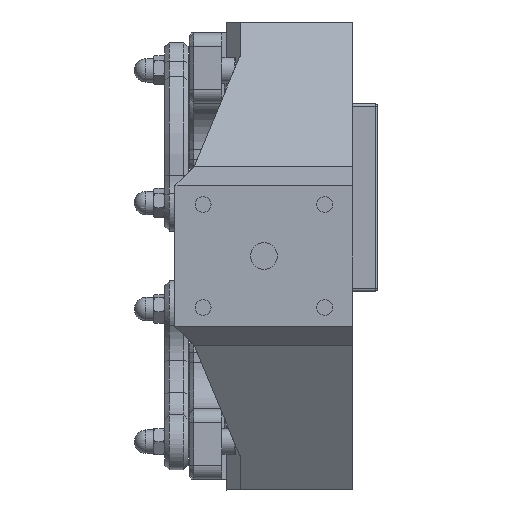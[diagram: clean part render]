
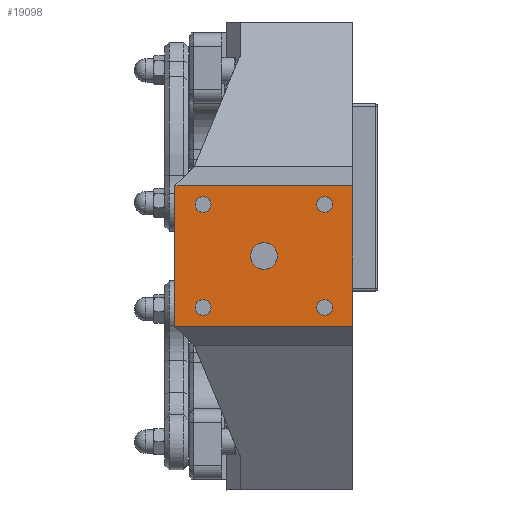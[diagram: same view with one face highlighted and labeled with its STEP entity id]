
A CAD part, front view. The second image highlights one B-rep face of the part: STEP entity #19098.
In plain terms, the highlighted planar face has unit normal (0, -1, 0).
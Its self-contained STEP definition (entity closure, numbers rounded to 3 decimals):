
#807=FACE_BOUND('',#3824,.T.);
#808=FACE_BOUND('',#3825,.T.);
#809=FACE_BOUND('',#3826,.T.);
#810=FACE_BOUND('',#3827,.T.);
#811=FACE_BOUND('',#3828,.T.);
#1317=PLANE('',#21348);
#2624=FACE_OUTER_BOUND('',#3823,.T.);
#3823=EDGE_LOOP('',(#17030,#17031,#17032,#17033));
#3824=EDGE_LOOP('',(#17034));
#3825=EDGE_LOOP('',(#17035));
#3826=EDGE_LOOP('',(#17036));
#3827=EDGE_LOOP('',(#17037));
#3828=EDGE_LOOP('',(#17038));
#5390=LINE('',#32059,#7128);
#5392=LINE('',#32065,#7130);
#5400=LINE('',#32080,#7138);
#5401=LINE('',#32081,#7139);
#7128=VECTOR('',#26117,10.);
#7130=VECTOR('',#26121,10.);
#7138=VECTOR('',#26133,10.);
#7139=VECTOR('',#26134,10.);
#8251=CIRCLE('',#21349,1.7);
#8252=CIRCLE('',#21350,1.7);
#8253=CIRCLE('',#21351,1.7);
#8254=CIRCLE('',#21352,1.7);
#8255=CIRCLE('',#21353,2.85);
#9684=VERTEX_POINT('',#32052);
#9687=VERTEX_POINT('',#32057);
#9688=VERTEX_POINT('',#32061);
#9690=VERTEX_POINT('',#32064);
#9696=VERTEX_POINT('',#32082);
#9697=VERTEX_POINT('',#32084);
#9698=VERTEX_POINT('',#32086);
#9699=VERTEX_POINT('',#32088);
#9700=VERTEX_POINT('',#32090);
#12189=EDGE_CURVE('',#9684,#9687,#5390,.T.);
#12191=EDGE_CURVE('',#9690,#9688,#5392,.T.);
#12199=EDGE_CURVE('',#9688,#9684,#5400,.T.);
#12200=EDGE_CURVE('',#9687,#9690,#5401,.T.);
#12201=EDGE_CURVE('',#9696,#9696,#8251,.T.);
#12202=EDGE_CURVE('',#9697,#9697,#8252,.T.);
#12203=EDGE_CURVE('',#9698,#9698,#8253,.T.);
#12204=EDGE_CURVE('',#9699,#9699,#8254,.T.);
#12205=EDGE_CURVE('',#9700,#9700,#8255,.T.);
#17030=ORIENTED_EDGE('',*,*,#12199,.T.);
#17031=ORIENTED_EDGE('',*,*,#12189,.T.);
#17032=ORIENTED_EDGE('',*,*,#12200,.T.);
#17033=ORIENTED_EDGE('',*,*,#12191,.T.);
#17034=ORIENTED_EDGE('',*,*,#12201,.T.);
#17035=ORIENTED_EDGE('',*,*,#12202,.T.);
#17036=ORIENTED_EDGE('',*,*,#12203,.T.);
#17037=ORIENTED_EDGE('',*,*,#12204,.T.);
#17038=ORIENTED_EDGE('',*,*,#12205,.T.);
#19098=ADVANCED_FACE('',(#2624,#807,#808,#809,#810,#811),#1317,.T.);
#21348=AXIS2_PLACEMENT_3D('',#32079,#26131,#26132);
#21349=AXIS2_PLACEMENT_3D('',#32083,#26135,#26136);
#21350=AXIS2_PLACEMENT_3D('',#32085,#26137,#26138);
#21351=AXIS2_PLACEMENT_3D('',#32087,#26139,#26140);
#21352=AXIS2_PLACEMENT_3D('',#32089,#26141,#26142);
#21353=AXIS2_PLACEMENT_3D('',#32091,#26143,#26144);
#26117=DIRECTION('',(0.,0.,1.));
#26121=DIRECTION('',(0.,0.,-1.));
#26131=DIRECTION('center_axis',(0.,-1.,0.));
#26132=DIRECTION('ref_axis',(0.,0.,-1.));
#26133=DIRECTION('',(1.,0.,0.));
#26134=DIRECTION('',(-1.,0.,0.));
#26135=DIRECTION('center_axis',(0.,1.,0.));
#26136=DIRECTION('ref_axis',(-1.,0.,0.));
#26137=DIRECTION('center_axis',(0.,1.,0.));
#26138=DIRECTION('ref_axis',(-1.,0.,0.));
#26139=DIRECTION('center_axis',(0.,1.,0.));
#26140=DIRECTION('ref_axis',(-1.,0.,0.));
#26141=DIRECTION('center_axis',(0.,1.,0.));
#26142=DIRECTION('ref_axis',(-1.,0.,0.));
#26143=DIRECTION('center_axis',(0.,1.,0.));
#26144=DIRECTION('ref_axis',(-1.,0.,0.));
#32052=CARTESIAN_POINT('',(15.,-55.,-19.));
#32057=CARTESIAN_POINT('',(15.,-55.,19.));
#32059=CARTESIAN_POINT('',(15.,-55.,-19.));
#32061=CARTESIAN_POINT('',(-15.,-55.,-19.));
#32064=CARTESIAN_POINT('',(-15.,-55.,19.));
#32065=CARTESIAN_POINT('',(-15.,-55.,19.));
#32079=CARTESIAN_POINT('Origin',(0.,-55.,0.));
#32080=CARTESIAN_POINT('',(-15.,-55.,-19.));
#32081=CARTESIAN_POINT('',(15.,-55.,19.));
#32082=CARTESIAN_POINT('',(-12.7,-55.,13.));
#32083=CARTESIAN_POINT('Origin',(-11.,-55.,13.));
#32084=CARTESIAN_POINT('',(9.3,-55.,13.));
#32085=CARTESIAN_POINT('Origin',(11.,-55.,13.));
#32086=CARTESIAN_POINT('',(-12.7,-55.,-13.));
#32087=CARTESIAN_POINT('Origin',(-11.,-55.,-13.));
#32088=CARTESIAN_POINT('',(9.3,-55.,-13.));
#32089=CARTESIAN_POINT('Origin',(11.,-55.,-13.));
#32090=CARTESIAN_POINT('',(-2.85,-55.,0.));
#32091=CARTESIAN_POINT('Origin',(0.,-55.,0.));
